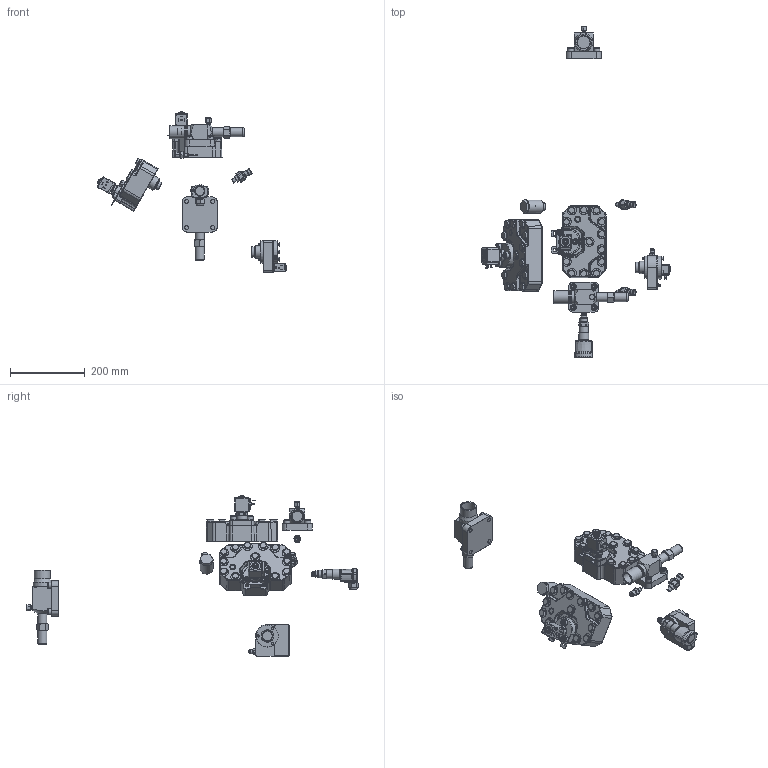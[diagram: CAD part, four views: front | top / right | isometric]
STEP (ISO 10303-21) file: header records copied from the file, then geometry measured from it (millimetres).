
FILE_DESCRIPTION(/* description */ (''),/* implementation_level */ '2;1');
FILE_NAME(/* name */ '6fteu_6dteu_6cteu_OPTION.stp',/* time_stamp */ '2023-11-13T09:10:22+01:00',/* author */ (''),/* organization */ (''),/* preprocessor_version */ 'ST-DEVELOPER v19.3',/* originating_system */ 'SIEMENS PLM Software NX2212.6000',/* authorisation */ '');
FILE_SCHEMA (('AUTOMOTIVE_DESIGN { 1 0 10303 214 3 1 1 1 }'));
Products named in the file (1): 200414716ugm001_03_objects
Bounding box: 504.81 x 885.83 x 427.9 mm (x, y, z)
Volume: 3611877.1 mm3; surface area: 385855.2 mm2
Topology: 10 solids, 20 shells, 3010 faces, 7174 edges, 4361 vertices
Faces by surface type: plane 992, cylinder 704, bspline 653, cone 435, torus 211, sphere 15
Full cylindrical faces by diameter (mm): 1.5 x3, 1.65 x6, 1.8 x3, 2 x2, 2.5 x1, 3.2 x2, 4 x1, 5 x1, 6 x8, 6.5 x3, 7.8 x1, 8 x2, 8.5 x1, 8.6 x2, 9 x4, 9.75 x2, 10 x7, 10.287 x1, 10.3 x2, 10.5 x2, 10.6 x8, 10.72 x2, 10.835 x2, 11 x3, 11.113 x1, 11.4 x1, 11.7 x4, 12 x3, 12.9 x2, 13.4 x1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
Entity records: 108114 total; most frequent: CARTESIAN_POINT 41352, ORIENTED_EDGE 13296, DIRECTION 11909, EDGE_CURVE 6648, AXIS2_PLACEMENT_3D 4781, VERTEX_POINT 4222, EDGE_LOOP 3593, ADVANCED_FACE 3010
